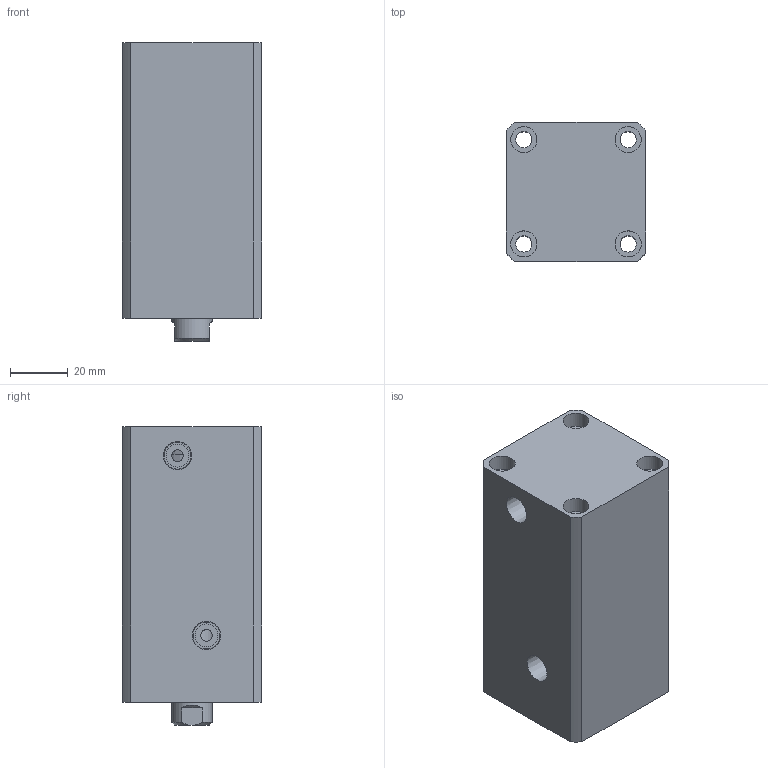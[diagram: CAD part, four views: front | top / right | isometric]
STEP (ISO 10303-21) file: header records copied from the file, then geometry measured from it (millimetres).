
FILE_DESCRIPTION(/* description */ (''),/* implementation_level */ '2;1');
FILE_NAME(/* name */ 'CHTB-sd25x50n.stp',/* time_stamp */ '2022-04-29T14:29:17+08:00',/* author */ (''),/* organization */ (''),/* preprocessor_version */ 'ST-DEVELOPER v16.7',/* originating_system */ 'SIEMENS PLM Software NX 12.0',/* authorisation */ '');
FILE_SCHEMA (('AUTOMOTIVE_DESIGN { 1 0 10303 214 3 1 1 1 }'));
Length unit declared in the file: millimetre
Products named in the file (1): CHTB-sd25x50n
Bounding box: 48 x 48 x 103 mm (x, y, z)
Volume: 186923.9 mm3; surface area: 48701 mm2
Topology: 3 solids, 3 shells, 420 faces, 1106 edges, 737 vertices
Faces by surface type: plane 268, extrusion 96, cylinder 40, bspline 8, cone 7, torus 1
Full cylindrical faces by diameter (mm): 3 x2, 4 x2, 5.6 x4, 7.9 x2, 8.5 x1, 9 x8, 14 x2, 21 x2, 23 x2, 25 x5, 31 x1
Entity records: 19164 total; most frequent: CARTESIAN_POINT 6986, ORIENTED_EDGE 2106, DIRECTION 1648, EDGE_CURVE 1053, VECTOR 842, LINE 746, VERTEX_POINT 726, EDGE_LOOP 518
